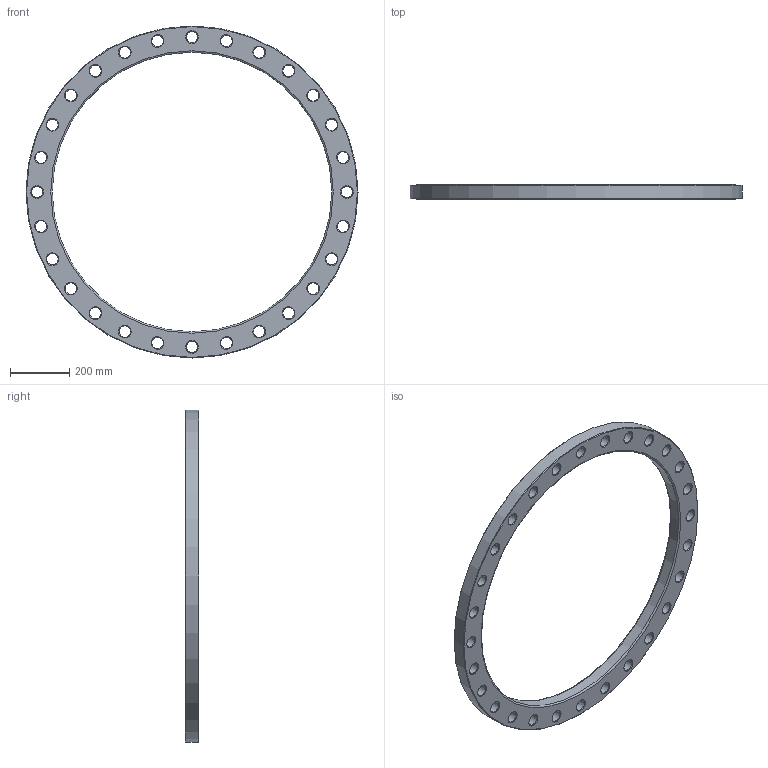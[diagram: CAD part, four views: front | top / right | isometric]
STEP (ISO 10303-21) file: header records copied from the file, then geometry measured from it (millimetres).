
FILE_DESCRIPTION(/* description */ ('Unknown'),/* implementation_level */ '2;1');
FILE_NAME(/* name */ 'FZ900C',/* time_stamp */ '2021-03-15T12:34:04+01:00',/* author */ ('Unknown'),/* organization */ ('Unknown'),/* preprocessor_version */ 'ST-DEVELOPER v16.7',/* originating_system */ 'Solid Edge',/* authorisation */ 'Unknown');
FILE_SCHEMA (('AUTOMOTIVE_DESIGN {1 0 10303 214 3 1 1}'));
Length unit declared in the file: millimetre
Products named in the file (1): FZ900C
Bounding box: 1125 x 47 x 1125 mm (x, y, z)
Volume: 11981976.7 mm3; surface area: 950832 mm2
Topology: 1 solids, 1 shells, 92 faces, 294 edges, 204 vertices
Faces by surface type: cone 58, cylinder 30, plane 2, torus 2
Full cylindrical faces by diameter (mm): 39 x28, 947 x1, 1125 x1
Entity records: 2270 total; most frequent: DIRECTION 426, CARTESIAN_POINT 333, ORIENTED_EDGE 240, EDGE_LOOP 240, FACE_BOUND 240, AXIS2_PLACEMENT_3D 213, EDGE_CURVE 120, VERTEX_POINT 120
